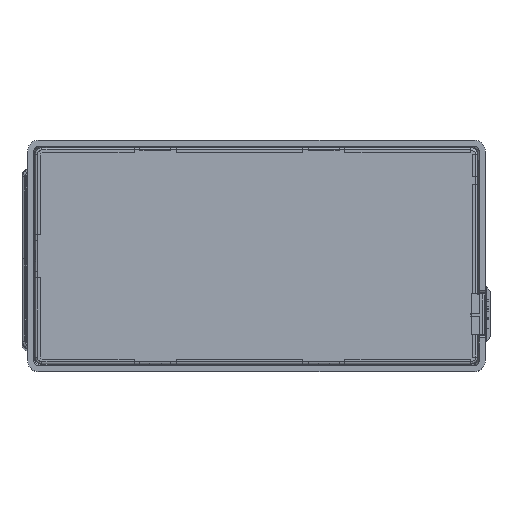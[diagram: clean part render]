
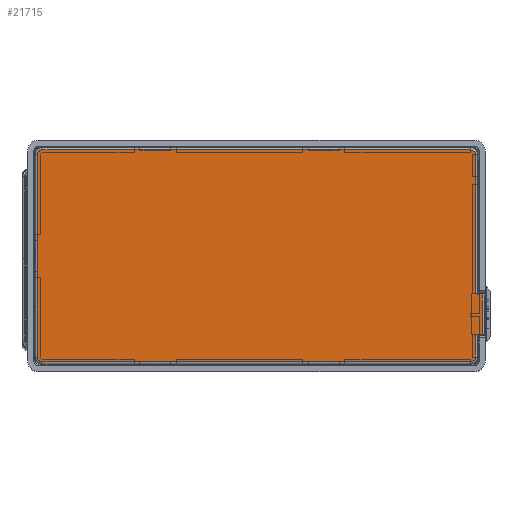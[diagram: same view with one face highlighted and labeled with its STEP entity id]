
A CAD part, top view. The second image highlights one B-rep face of the part: STEP entity #21715.
In plain terms, the highlighted planar face has unit normal (0, 0, 1) as drawn and (0, 0, -1) by its records, which use the part's own axes.
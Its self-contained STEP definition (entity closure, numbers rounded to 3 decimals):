
#997=CIRCLE('',#23045,1.973);
#1004=CIRCLE('',#23055,1.973);
#1011=CIRCLE('',#23065,1.973);
#1018=CIRCLE('',#23075,1.973);
#2078=LINE('',#36279,#3573);
#2081=LINE('',#36294,#3576);
#2082=LINE('',#36311,#3577);
#2084=LINE('',#36329,#3579);
#2086=LINE('',#36347,#3581);
#2088=LINE('',#36363,#3583);
#2292=LINE('',#36897,#3787);
#2293=LINE('',#36898,#3788);
#3573=VECTOR('',#26760,1000.);
#3576=VECTOR('',#26773,1000.);
#3577=VECTOR('',#26794,1000.);
#3579=VECTOR('',#26816,1000.);
#3581=VECTOR('',#26838,1000.);
#3583=VECTOR('',#26858,1000.);
#3787=VECTOR('',#27340,1000.);
#3788=VECTOR('',#27341,1000.);
#4439=PLANE('',#23217);
#9284=ORIENTED_EDGE('',*,*,#12474,.F.);
#9285=ORIENTED_EDGE('',*,*,#12180,.T.);
#9286=ORIENTED_EDGE('',*,*,#12184,.T.);
#9287=ORIENTED_EDGE('',*,*,#12188,.T.);
#9288=ORIENTED_EDGE('',*,*,#12193,.T.);
#9289=ORIENTED_EDGE('',*,*,#12197,.T.);
#9290=ORIENTED_EDGE('',*,*,#12202,.T.);
#9291=ORIENTED_EDGE('',*,*,#12206,.T.);
#9292=ORIENTED_EDGE('',*,*,#12211,.T.);
#9293=ORIENTED_EDGE('',*,*,#12214,.T.);
#9294=ORIENTED_EDGE('',*,*,#12475,.F.);
#9295=ORIENTED_EDGE('',*,*,#12173,.T.);
#12173=EDGE_CURVE('',#14212,#14210,#2078,.T.);
#12180=EDGE_CURVE('',#14215,#14218,#2081,.T.);
#12184=EDGE_CURVE('',#14218,#14221,#997,.T.);
#12188=EDGE_CURVE('',#14221,#14224,#2082,.T.);
#12193=EDGE_CURVE('',#14224,#14227,#1004,.T.);
#12197=EDGE_CURVE('',#14227,#14230,#2084,.T.);
#12202=EDGE_CURVE('',#14230,#14233,#1011,.T.);
#12206=EDGE_CURVE('',#14233,#14236,#2086,.T.);
#12211=EDGE_CURVE('',#14236,#14239,#1018,.T.);
#12214=EDGE_CURVE('',#14239,#14240,#2088,.T.);
#12474=EDGE_CURVE('',#14215,#14210,#2292,.T.);
#12475=EDGE_CURVE('',#14212,#14240,#2293,.T.);
#14210=VERTEX_POINT('',#36277);
#14212=VERTEX_POINT('',#36280);
#14215=VERTEX_POINT('',#36287);
#14218=VERTEX_POINT('',#36293);
#14221=VERTEX_POINT('',#36303);
#14224=VERTEX_POINT('',#36310);
#14227=VERTEX_POINT('',#36321);
#14230=VERTEX_POINT('',#36328);
#14233=VERTEX_POINT('',#36339);
#14236=VERTEX_POINT('',#36346);
#14239=VERTEX_POINT('',#36357);
#14240=VERTEX_POINT('',#36361);
#16201=EDGE_LOOP('',(#9284,#9285,#9286,#9287,#9288,#9289,#9290,#9291,#9292,
#9293,#9294,#9295));
#17328=FACE_BOUND('',#16201,.T.);
#21715=ADVANCED_FACE('',(#17328),#4439,.T.);
#23045=AXIS2_PLACEMENT_3D('',#36302,#26784,#26785);
#23055=AXIS2_PLACEMENT_3D('',#36320,#26806,#26807);
#23065=AXIS2_PLACEMENT_3D('',#36338,#26828,#26829);
#23075=AXIS2_PLACEMENT_3D('',#36356,#26850,#26851);
#23217=AXIS2_PLACEMENT_3D('',#36896,#27338,#27339);
#26760=DIRECTION('',(0.,-1.,0.));
#26773=DIRECTION('',(0.,-1.,0.));
#26784=DIRECTION('',(0.,0.,-1.));
#26785=DIRECTION('',(1.,0.,0.));
#26794=DIRECTION('',(-1.,0.,0.));
#26806=DIRECTION('',(0.,0.,-1.));
#26807=DIRECTION('',(0.,-1.,0.));
#26816=DIRECTION('',(0.,1.,0.));
#26828=DIRECTION('',(0.,0.,-1.));
#26829=DIRECTION('',(-1.,0.,0.));
#26838=DIRECTION('',(1.,0.,0.));
#26850=DIRECTION('',(0.,0.,-1.));
#26851=DIRECTION('',(0.,1.,0.));
#26858=DIRECTION('',(0.,-1.,0.));
#27338=DIRECTION('',(0.,0.,-1.));
#27339=DIRECTION('',(1.,0.,0.));
#27340=DIRECTION('',(1.,0.,0.));
#27341=DIRECTION('',(-1.,0.,0.));
#36277=CARTESIAN_POINT('',(223.988,454.2,-2.));
#36279=CARTESIAN_POINT('',(223.988,470.9,-2.));
#36280=CARTESIAN_POINT('',(223.988,470.9,-2.));
#36287=CARTESIAN_POINT('',(221.17,454.2,-2.));
#36293=CARTESIAN_POINT('',(221.17,396.4,-2.));
#36294=CARTESIAN_POINT('',(221.17,454.2,-2.));
#36302=CARTESIAN_POINT('',(219.196,396.4,-2.));
#36303=CARTESIAN_POINT('',(219.196,394.426,-2.));
#36310=CARTESIAN_POINT('',(41.196,394.426,-2.));
#36311=CARTESIAN_POINT('',(219.196,394.426,-2.));
#36320=CARTESIAN_POINT('',(41.196,396.4,-2.));
#36321=CARTESIAN_POINT('',(39.223,396.4,-2.));
#36328=CARTESIAN_POINT('',(39.223,480.4,-2.));
#36329=CARTESIAN_POINT('',(39.223,396.4,-2.));
#36338=CARTESIAN_POINT('',(41.196,480.4,-2.));
#36339=CARTESIAN_POINT('',(41.196,482.374,-2.));
#36346=CARTESIAN_POINT('',(219.196,482.374,-2.));
#36347=CARTESIAN_POINT('',(41.196,482.374,-2.));
#36356=CARTESIAN_POINT('',(219.196,480.4,-2.));
#36357=CARTESIAN_POINT('',(221.17,480.4,-2.));
#36361=CARTESIAN_POINT('',(221.17,470.9,-2.));
#36363=CARTESIAN_POINT('',(221.17,480.4,-2.));
#36896=CARTESIAN_POINT('',(222.158,446.388,-2.));
#36897=CARTESIAN_POINT('',(221.17,454.2,-2.));
#36898=CARTESIAN_POINT('',(223.988,470.9,-2.));
